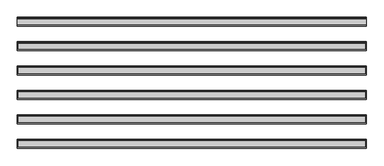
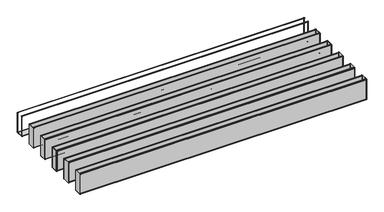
"""IFC4 building model written with IfcOpenShell, lengths in millimetres: proxy geometry, durlum_POLYLAM_KS : durlum_POLYLAM-KS/-S 100."""

from ifc_helpers import new_model, si_unit, frame, origin, place, context, project, spatial, polyline, circle_curve, outline, extrude, source, transform, mapped, element, save
from ifc_brep_helpers import plane_surface, cylinder_surface, advanced_brep


def generic_models_34a5c581(model_context):
    return source(origin(), model_context, "Body", "SolidModel", [
        advanced_brep(
        [(1995.0, 328.0, 2754.9464286), (1995.0, 318.0, 2754.9464286), (1995.0, 318.0, 2754.106874), (1995.0, 329.0, 2754.106874), (1995.0, 329.0, 2455.9464286), (1995.0, 231.0, 2455.9464286), (1995.0, 231.0, 2753.8620021), (1995.0, 242.0, 2753.8620021), (1995.0, 242.0, 2754.9464286), (1995.0, 232.0, 2754.9464286), (1995.0, 230.0, 2752.9464286), (1995.0, 230.0, 2456.9464286), (1995.0, 232.0, 2454.9464286), (1995.0, 328.0, 2454.9464286), (1995.0, 330.0, 2456.9464286), (1995.0, 330.0, 2752.9464286), (-1995.0, 328.0, 2754.9464286), (-1995.0, 330.0, 2752.9464286), (-1995.0, 330.0, 2456.9464286), (-1995.0, 328.0, 2454.9464286), (-1995.0, 232.0, 2454.9464286), (-1995.0, 230.0, 2456.9464286), (-1995.0, 230.0, 2752.9464286), (-1995.0, 232.0, 2754.9464286), (-1995.0, 242.0, 2754.9464286), (-1995.0, 242.0, 2753.8620021), (-1995.0, 231.0, 2753.8620021), (-1995.0, 231.0, 2455.9464286), (-1995.0, 329.0, 2455.9464286), (-1995.0, 329.0, 2754.106874), (-1995.0, 318.0, 2754.106874), (-1995.0, 318.0, 2754.9464286), (-1986.5, 329.0, 2746.4464286), (1986.5, 329.0, 2746.4464286), (1986.5, 329.0, 2463.4464286), (-1986.5, 329.0, 2463.4464286), (1986.5, 231.0, 2746.4464286), (-1986.5, 231.0, 2746.4464286), (-1986.5, 231.0, 2463.4464286), (1986.5, 231.0, 2463.4464286), (-1986.5, 230.0, 2746.4464286), (1986.5, 230.0, 2746.4464286), (1986.5, 230.0, 2463.4464286), (-1986.5, 230.0, 2463.4464286), (1986.5, 330.0, 2746.4464286), (-1986.5, 330.0, 2746.4464286), (-1986.5, 330.0, 2463.4464286), (1986.5, 330.0, 2463.4464286)],
        [
            (0, 1),
            (1, 2),
            (2, 3),
            (3, 4),
            (4, 5),
            (5, 6),
            (6, 7),
            (7, 8),
            (8, 9),
            (9, 10, circle_curve(frame((1995.0, 232.0, 2752.9464286), z_axis=(1.0, 0.0, 0.0), x_axis=(0.0, 1.0, 0.0)), 2.0)),
            (10, 11),
            (11, 12, circle_curve(frame((1995.0, 232.0, 2456.9464286), z_axis=(1.0, 0.0, 0.0), x_axis=(0.0, 1.0, 0.0)), 2.0)),
            (12, 13),
            (13, 14, circle_curve(frame((1995.0, 328.0, 2456.9464286), z_axis=(1.0, 0.0, 0.0), x_axis=(0.0, 1.0, 0.0)), 2.0)),
            (14, 15),
            (15, 0, circle_curve(frame((1995.0, 328.0, 2752.9464286), z_axis=(1.0, 0.0, 0.0), x_axis=(0.0, 1.0, 0.0)), 2.0)),
            (16, 17, circle_curve(frame((-1995.0, 328.0, 2752.9464286), z_axis=(-1.0, 0.0, 0.0), x_axis=(0.0, 1.0, 0.0)), 2.0)),
            (17, 18),
            (18, 19, circle_curve(frame((-1995.0, 328.0, 2456.9464286), z_axis=(-1.0, 0.0, 0.0), x_axis=(0.0, 1.0, 0.0)), 2.0)),
            (19, 20),
            (20, 21, circle_curve(frame((-1995.0, 232.0, 2456.9464286), z_axis=(-1.0, 0.0, 0.0), x_axis=(0.0, 1.0, 0.0)), 2.0)),
            (21, 22),
            (22, 23, circle_curve(frame((-1995.0, 232.0, 2752.9464286), z_axis=(-1.0, 0.0, 0.0), x_axis=(0.0, 1.0, 0.0)), 2.0)),
            (23, 24),
            (24, 25),
            (25, 26),
            (26, 27),
            (27, 28),
            (28, 29),
            (29, 30),
            (30, 31),
            (31, 16),
            (0, 16),
            (31, 1),
            (30, 2),
            (29, 3),
            (28, 4),
            (32, 33),
            (33, 34),
            (34, 35),
            (35, 32),
            (27, 5),
            (26, 6),
            (36, 37),
            (37, 38),
            (38, 39),
            (39, 36),
            (25, 7),
            (24, 8),
            (23, 9),
            (10, 22),
            (21, 11),
            (40, 41),
            (41, 42),
            (42, 43),
            (43, 40),
            (12, 20),
            (19, 13),
            (14, 18),
            (17, 15),
            (44, 45),
            (45, 46),
            (46, 47),
            (47, 44),
            (44, 33),
            (32, 45),
            (36, 41),
            (40, 37),
            (35, 46),
            (43, 38),
            (34, 47),
            (42, 39),
        ],
        [
            plane_surface(frame((1995.0, 318.0, 2754.9464286), z_axis=(1.0, 0.0, 0.0), x_axis=(0.0, -1.0, 0.0))),
            plane_surface(frame((-1995.0, 318.0, 2754.9464286), z_axis=(-1.0, 0.0, 0.0), x_axis=(0.0, 1.0, 0.0))),
            plane_surface(frame((1995.0, 328.0, 2754.9464286), z_axis=(0.0, 0.0, 1.0), x_axis=(-1.0, 0.0, 0.0))),
            plane_surface(frame((1995.0, 318.0, 2754.9464286), z_axis=(0.0, -1.0, 0.0), x_axis=(-1.0, 0.0, 0.0))),
            plane_surface(frame((1995.0, 318.0, 2754.106874), z_axis=(0.0, 0.0, -1.0), x_axis=(-1.0, 0.0, 0.0))),
            plane_surface(frame((1995.0, 329.0, 2754.106874), z_axis=(0.0, -1.0, 0.0), x_axis=(-1.0, 0.0, 0.0))),
            plane_surface(frame((1995.0, 329.0, 2455.9464286), z_axis=(0.0, 0.0, 1.0), x_axis=(-1.0, 0.0, 0.0))),
            plane_surface(frame((1995.0, 231.0, 2455.9464286), z_axis=(0.0, 1.0, 0.0), x_axis=(-1.0, 0.0, 0.0))),
            plane_surface(frame((1995.0, 231.0, 2753.8620021), z_axis=(0.0, 0.0, -1.0), x_axis=(-1.0, 0.0, 0.0))),
            plane_surface(frame((1995.0, 242.0, 2753.8620021), z_axis=(0.0, 1.0, 0.0), x_axis=(-1.0, 0.0, 0.0))),
            plane_surface(frame((1995.0, 242.0, 2754.9464286), z_axis=(0.0, 0.0, 1.0), x_axis=(-1.0, 0.0, 0.0))),
            plane_surface(frame((1995.0, 230.0, 2752.9464286), z_axis=(0.0, -1.0, 0.0), x_axis=(-1.0, 0.0, 0.0))),
            plane_surface(frame((1995.0, 232.0, 2454.9464286), z_axis=(0.0, 0.0, -1.0), x_axis=(-1.0, 0.0, 0.0))),
            plane_surface(frame((1995.0, 330.0, 2456.9464286), z_axis=(0.0, 1.0, 0.0), x_axis=(-1.0, 0.0, 0.0))),
            cylinder_surface(frame((-1995.0, 232.0, 2752.9464286), z_axis=(1.0, 0.0, 0.0), x_axis=(0.0, 1.0, 0.0)), 2.0),
            cylinder_surface(frame((-1995.0, 232.0, 2456.9464286), z_axis=(1.0, 0.0, 0.0), x_axis=(0.0, 1.0, 0.0)), 2.0),
            cylinder_surface(frame((-1995.0, 328.0, 2456.9464286), z_axis=(1.0, 0.0, 0.0), x_axis=(0.0, 1.0, 0.0)), 2.0),
            cylinder_surface(frame((-1995.0, 328.0, 2752.9464286), z_axis=(1.0, 0.0, 0.0), x_axis=(0.0, 1.0, 0.0)), 2.0),
            plane_surface(frame((1986.5, 230.0, 2746.4464286), z_axis=(0.0, 0.0, -1.0), x_axis=(0.0, 1.0, 0.0))),
            plane_surface(frame((-1986.5, 230.0, 2746.4464286), z_axis=(1.0, 0.0, 0.0), x_axis=(0.0, 1.0, 0.0))),
            plane_surface(frame((-1986.5, 230.0, 2463.4464286), z_axis=(0.0, 0.0, 1.0), x_axis=(0.0, 1.0, 0.0))),
            plane_surface(frame((1986.5, 230.0, 2463.4464286), z_axis=(-1.0, 0.0, 0.0), x_axis=(0.0, 1.0, 0.0))),
        ],
        [
            (0, [[1, 2, 3, 4, 5, 6, 7, 8, 9, 10, 11, 12, 13, 14, 15, 16]]),
            (1, [[17, 18, 19, 20, 21, 22, 23, 24, 25, 26, 27, 28, 29, 30, 31, 32]]),
            (2, [[-1, 33, -32, 34]]),
            (3, [[-2, -34, -31, 35]]),
            (4, [[-3, -35, -30, 36]]),
            (5, [[-4, -36, -29, 37], [38, 39, 40, 41]]),
            (6, [[-5, -37, -28, 42]]),
            (7, [[-6, -42, -27, 43], [44, 45, 46, 47]]),
            (8, [[-7, -43, -26, 48]]),
            (9, [[-8, -48, -25, 49]]),
            (10, [[-9, -49, -24, 50]]),
            (11, [[-11, 51, -22, 52], [53, 54, 55, 56]]),
            (12, [[-13, 57, -20, 58]]),
            (13, [[-15, 59, -18, 60], [61, 62, 63, 64]]),
            (14, [[-10, -50, -23, -51]]),
            (15, [[-12, -52, -21, -57]]),
            (16, [[-14, -58, -19, -59]]),
            (17, [[-16, -60, -17, -33]]),
            (18, [[65, -38, 66, -61]]),
            (18, [[67, -53, 68, -44]]),
            (19, [[-66, -41, 69, -62]]),
            (19, [[-68, -56, 70, -45]]),
            (20, [[-69, -40, 71, -63]]),
            (20, [[-70, -55, 72, -46]]),
            (21, [[-65, -64, -71, -39]]),
            (21, [[-67, -47, -72, -54]]),
        ],
    ),
        extrude(outline(polyline([(1986.5, 49.0), (-1986.5, 49.0), (-1986.5, 50.0), (1986.5, 50.0), (1986.5, 49.0)])), frame((0.0, 0.0, 2463.4464286), z_axis=(0.0, 0.0, 1.0), x_axis=(1.0, 0.0, 0.0)), (0.0, 0.0, 1.0), 283.0),
        extrude(outline(polyline([(1986.5, -50.0), (-1986.5, -50.0), (-1986.5, -49.0), (1986.5, -49.0), (1986.5, -50.0)])), frame((0.0, 0.0, 2463.4464286), z_axis=(0.0, 0.0, 1.0), x_axis=(1.0, 0.0, 0.0)), (0.0, 0.0, 1.0), 283.0),
        extrude(outline(polyline([(1993.0, 49.0), (1995.0, 49.0), (1995.0, -49.0), (1993.0, -49.0), (1993.0, 49.0)])), frame((0.0, 0.0, 2455.9464286), z_axis=(0.0, 0.0, 1.0), x_axis=(1.0, 0.0, 0.0)), (0.0, 0.0, 1.0), 298.1604454),
        extrude(outline(polyline([(-1995.0, 49.0), (-1993.0, 49.0), (-1993.0, -49.0), (-1995.0, -49.0), (-1995.0, 49.0)])), frame((0.0, 0.0, 2455.9464286), z_axis=(0.0, 0.0, 1.0), x_axis=(1.0, 0.0, 0.0)), (0.0, 0.0, 1.0), 298.1604454),
        advanced_brep(
        [(1995.0, 48.0, 2754.9464286), (1995.0, 38.0, 2754.9464286), (1995.0, 38.0, 2754.106874), (1995.0, 49.0, 2754.106874), (1995.0, 49.0, 2455.9464286), (1995.0, -49.0, 2455.9464286), (1995.0, -49.0, 2753.8620021), (1995.0, -38.0, 2753.8620021), (1995.0, -38.0, 2754.9464286), (1995.0, -48.0, 2754.9464286), (1995.0, -50.0, 2752.9464286), (1995.0, -50.0, 2456.9464286), (1995.0, -48.0, 2454.9464286), (1995.0, 48.0, 2454.9464286), (1995.0, 50.0, 2456.9464286), (1995.0, 50.0, 2752.9464286), (-1995.0, 48.0, 2754.9464286), (-1995.0, 50.0, 2752.9464286), (-1995.0, 50.0, 2456.9464286), (-1995.0, 48.0, 2454.9464286), (-1995.0, -48.0, 2454.9464286), (-1995.0, -50.0, 2456.9464286), (-1995.0, -50.0, 2752.9464286), (-1995.0, -48.0, 2754.9464286), (-1995.0, -38.0, 2754.9464286), (-1995.0, -38.0, 2753.8620021), (-1995.0, -49.0, 2753.8620021), (-1995.0, -49.0, 2455.9464286), (-1995.0, 49.0, 2455.9464286), (-1995.0, 49.0, 2754.106874), (-1995.0, 38.0, 2754.106874), (-1995.0, 38.0, 2754.9464286), (-1986.5, 49.0, 2746.4464286), (1986.5, 49.0, 2746.4464286), (1986.5, 49.0, 2463.4464286), (-1986.5, 49.0, 2463.4464286), (1986.5, -49.0, 2746.4464286), (-1986.5, -49.0, 2746.4464286), (-1986.5, -49.0, 2463.4464286), (1986.5, -49.0, 2463.4464286), (-1986.5, -50.0, 2746.4464286), (1986.5, -50.0, 2746.4464286), (1986.5, -50.0, 2463.4464286), (-1986.5, -50.0, 2463.4464286), (1986.5, 50.0, 2746.4464286), (-1986.5, 50.0, 2746.4464286), (-1986.5, 50.0, 2463.4464286), (1986.5, 50.0, 2463.4464286)],
        [
            (0, 1),
            (1, 2),
            (2, 3),
            (3, 4),
            (4, 5),
            (5, 6),
            (6, 7),
            (7, 8),
            (8, 9),
            (9, 10, circle_curve(frame((1995.0, -48.0, 2752.9464286), z_axis=(1.0, 0.0, 0.0), x_axis=(0.0, 1.0, 0.0)), 2.0)),
            (10, 11),
            (11, 12, circle_curve(frame((1995.0, -48.0, 2456.9464286), z_axis=(1.0, 0.0, 0.0), x_axis=(0.0, 1.0, 0.0)), 2.0)),
            (12, 13),
            (13, 14, circle_curve(frame((1995.0, 48.0, 2456.9464286), z_axis=(1.0, 0.0, 0.0), x_axis=(0.0, 1.0, 0.0)), 2.0)),
            (14, 15),
            (15, 0, circle_curve(frame((1995.0, 48.0, 2752.9464286), z_axis=(1.0, 0.0, 0.0), x_axis=(0.0, 1.0, 0.0)), 2.0)),
            (16, 17, circle_curve(frame((-1995.0, 48.0, 2752.9464286), z_axis=(-1.0, 0.0, 0.0), x_axis=(0.0, 1.0, 0.0)), 2.0)),
            (17, 18),
            (18, 19, circle_curve(frame((-1995.0, 48.0, 2456.9464286), z_axis=(-1.0, 0.0, 0.0), x_axis=(0.0, 1.0, 0.0)), 2.0)),
            (19, 20),
            (20, 21, circle_curve(frame((-1995.0, -48.0, 2456.9464286), z_axis=(-1.0, 0.0, 0.0), x_axis=(0.0, 1.0, 0.0)), 2.0)),
            (21, 22),
            (22, 23, circle_curve(frame((-1995.0, -48.0, 2752.9464286), z_axis=(-1.0, 0.0, 0.0), x_axis=(0.0, 1.0, 0.0)), 2.0)),
            (23, 24),
            (24, 25),
            (25, 26),
            (26, 27),
            (27, 28),
            (28, 29),
            (29, 30),
            (30, 31),
            (31, 16),
            (0, 16),
            (31, 1),
            (30, 2),
            (29, 3),
            (28, 4),
            (32, 33),
            (33, 34),
            (34, 35),
            (35, 32),
            (27, 5),
            (26, 6),
            (36, 37),
            (37, 38),
            (38, 39),
            (39, 36),
            (25, 7),
            (24, 8),
            (23, 9),
            (10, 22),
            (21, 11),
            (40, 41),
            (41, 42),
            (42, 43),
            (43, 40),
            (12, 20),
            (19, 13),
            (14, 18),
            (17, 15),
            (44, 45),
            (45, 46),
            (46, 47),
            (47, 44),
            (44, 33),
            (32, 45),
            (36, 41),
            (40, 37),
            (35, 46),
            (43, 38),
            (34, 47),
            (42, 39),
        ],
        [
            plane_surface(frame((1995.0, 38.0, 2754.9464286), z_axis=(1.0, 0.0, 0.0), x_axis=(0.0, -1.0, 0.0))),
            plane_surface(frame((-1995.0, 38.0, 2754.9464286), z_axis=(-1.0, 0.0, 0.0), x_axis=(0.0, 1.0, 0.0))),
            plane_surface(frame((1995.0, 48.0, 2754.9464286), z_axis=(0.0, 0.0, 1.0), x_axis=(-1.0, 0.0, 0.0))),
            plane_surface(frame((1995.0, 38.0, 2754.9464286), z_axis=(0.0, -1.0, 0.0), x_axis=(-1.0, 0.0, 0.0))),
            plane_surface(frame((1995.0, 38.0, 2754.106874), z_axis=(0.0, 0.0, -1.0), x_axis=(-1.0, 0.0, 0.0))),
            plane_surface(frame((1995.0, 49.0, 2754.106874), z_axis=(0.0, -1.0, 0.0), x_axis=(-1.0, 0.0, 0.0))),
            plane_surface(frame((1995.0, 49.0, 2455.9464286), z_axis=(0.0, 0.0, 1.0), x_axis=(-1.0, 0.0, 0.0))),
            plane_surface(frame((1995.0, -49.0, 2455.9464286), z_axis=(0.0, 1.0, 0.0), x_axis=(-1.0, 0.0, 0.0))),
            plane_surface(frame((1995.0, -49.0, 2753.8620021), z_axis=(0.0, 0.0, -1.0), x_axis=(-1.0, 0.0, 0.0))),
            plane_surface(frame((1995.0, -38.0, 2753.8620021), z_axis=(0.0, 1.0, 0.0), x_axis=(-1.0, 0.0, 0.0))),
            plane_surface(frame((1995.0, -38.0, 2754.9464286), z_axis=(0.0, 0.0, 1.0), x_axis=(-1.0, 0.0, 0.0))),
            plane_surface(frame((1995.0, -50.0, 2752.9464286), z_axis=(0.0, -1.0, 0.0), x_axis=(-1.0, 0.0, 0.0))),
            plane_surface(frame((1995.0, -48.0, 2454.9464286), z_axis=(0.0, 0.0, -1.0), x_axis=(-1.0, 0.0, 0.0))),
            plane_surface(frame((1995.0, 50.0, 2456.9464286), z_axis=(0.0, 1.0, 0.0), x_axis=(-1.0, 0.0, 0.0))),
            cylinder_surface(frame((-1995.0, -48.0, 2752.9464286), z_axis=(1.0, 0.0, 0.0), x_axis=(0.0, 1.0, 0.0)), 2.0),
            cylinder_surface(frame((-1995.0, -48.0, 2456.9464286), z_axis=(1.0, 0.0, 0.0), x_axis=(0.0, 1.0, 0.0)), 2.0),
            cylinder_surface(frame((-1995.0, 48.0, 2456.9464286), z_axis=(1.0, 0.0, 0.0), x_axis=(0.0, 1.0, 0.0)), 2.0),
            cylinder_surface(frame((-1995.0, 48.0, 2752.9464286), z_axis=(1.0, 0.0, 0.0), x_axis=(0.0, 1.0, 0.0)), 2.0),
            plane_surface(frame((1986.5, -50.0, 2746.4464286), z_axis=(0.0, 0.0, -1.0), x_axis=(0.0, 1.0, 0.0))),
            plane_surface(frame((-1986.5, -50.0, 2746.4464286), z_axis=(1.0, 0.0, 0.0), x_axis=(0.0, 1.0, 0.0))),
            plane_surface(frame((-1986.5, -50.0, 2463.4464286), z_axis=(0.0, 0.0, 1.0), x_axis=(0.0, 1.0, 0.0))),
            plane_surface(frame((1986.5, -50.0, 2463.4464286), z_axis=(-1.0, 0.0, 0.0), x_axis=(0.0, 1.0, 0.0))),
        ],
        [
            (0, [[1, 2, 3, 4, 5, 6, 7, 8, 9, 10, 11, 12, 13, 14, 15, 16]]),
            (1, [[17, 18, 19, 20, 21, 22, 23, 24, 25, 26, 27, 28, 29, 30, 31, 32]]),
            (2, [[-1, 33, -32, 34]]),
            (3, [[-2, -34, -31, 35]]),
            (4, [[-3, -35, -30, 36]]),
            (5, [[-4, -36, -29, 37], [38, 39, 40, 41]]),
            (6, [[-5, -37, -28, 42]]),
            (7, [[-6, -42, -27, 43], [44, 45, 46, 47]]),
            (8, [[-7, -43, -26, 48]]),
            (9, [[-8, -48, -25, 49]]),
            (10, [[-9, -49, -24, 50]]),
            (11, [[-11, 51, -22, 52], [53, 54, 55, 56]]),
            (12, [[-13, 57, -20, 58]]),
            (13, [[-15, 59, -18, 60], [61, 62, 63, 64]]),
            (14, [[-10, -50, -23, -51]]),
            (15, [[-12, -52, -21, -57]]),
            (16, [[-14, -58, -19, -59]]),
            (17, [[-16, -60, -17, -33]]),
            (18, [[65, -38, 66, -61]]),
            (18, [[67, -53, 68, -44]]),
            (19, [[-66, -41, 69, -62]]),
            (19, [[-68, -56, 70, -45]]),
            (20, [[-69, -40, 71, -63]]),
            (20, [[-70, -55, 72, -46]]),
            (21, [[-65, -64, -71, -39]]),
            (21, [[-67, -47, -72, -54]]),
        ],
    ),
        extrude(outline(polyline([(1986.5, -231.0), (-1986.5, -231.0), (-1986.5, -230.0), (1986.5, -230.0), (1986.5, -231.0)])), frame((0.0, 0.0, 2463.4464286), z_axis=(0.0, 0.0, 1.0), x_axis=(1.0, 0.0, 0.0)), (0.0, 0.0, 1.0), 283.0),
        extrude(outline(polyline([(1986.5, -330.0), (-1986.5, -330.0), (-1986.5, -329.0), (1986.5, -329.0), (1986.5, -330.0)])), frame((0.0, 0.0, 2463.4464286), z_axis=(0.0, 0.0, 1.0), x_axis=(1.0, 0.0, 0.0)), (0.0, 0.0, 1.0), 283.0),
        extrude(outline(polyline([(1993.0, -231.0), (1995.0, -231.0), (1995.0, -329.0), (1993.0, -329.0), (1993.0, -231.0)])), frame((0.0, 0.0, 2455.9464286), z_axis=(0.0, 0.0, 1.0), x_axis=(1.0, 0.0, 0.0)), (0.0, 0.0, 1.0), 298.1604454),
        extrude(outline(polyline([(-1995.0, -231.0), (-1993.0, -231.0), (-1993.0, -329.0), (-1995.0, -329.0), (-1995.0, -231.0)])), frame((0.0, 0.0, 2455.9464286), z_axis=(0.0, 0.0, 1.0), x_axis=(1.0, 0.0, 0.0)), (0.0, 0.0, 1.0), 298.1604454),
        advanced_brep(
        [(1995.0, -232.0, 2754.9464286), (1995.0, -242.0, 2754.9464286), (1995.0, -242.0, 2754.106874), (1995.0, -231.0, 2754.106874), (1995.0, -231.0, 2455.9464286), (1995.0, -329.0, 2455.9464286), (1995.0, -329.0, 2753.8620021), (1995.0, -318.0, 2753.8620021), (1995.0, -318.0, 2754.9464286), (1995.0, -328.0, 2754.9464286), (1995.0, -330.0, 2752.9464286), (1995.0, -330.0, 2456.9464286), (1995.0, -328.0, 2454.9464286), (1995.0, -232.0, 2454.9464286), (1995.0, -230.0, 2456.9464286), (1995.0, -230.0, 2752.9464286), (-1995.0, -232.0, 2754.9464286), (-1995.0, -230.0, 2752.9464286), (-1995.0, -230.0, 2456.9464286), (-1995.0, -232.0, 2454.9464286), (-1995.0, -328.0, 2454.9464286), (-1995.0, -330.0, 2456.9464286), (-1995.0, -330.0, 2752.9464286), (-1995.0, -328.0, 2754.9464286), (-1995.0, -318.0, 2754.9464286), (-1995.0, -318.0, 2753.8620021), (-1995.0, -329.0, 2753.8620021), (-1995.0, -329.0, 2455.9464286), (-1995.0, -231.0, 2455.9464286), (-1995.0, -231.0, 2754.106874), (-1995.0, -242.0, 2754.106874), (-1995.0, -242.0, 2754.9464286), (-1986.5, -231.0, 2746.4464286), (1986.5, -231.0, 2746.4464286), (1986.5, -231.0, 2463.4464286), (-1986.5, -231.0, 2463.4464286), (1986.5, -329.0, 2746.4464286), (-1986.5, -329.0, 2746.4464286), (-1986.5, -329.0, 2463.4464286), (1986.5, -329.0, 2463.4464286), (-1986.5, -330.0, 2746.4464286), (1986.5, -330.0, 2746.4464286), (1986.5, -330.0, 2463.4464286), (-1986.5, -330.0, 2463.4464286), (1986.5, -230.0, 2746.4464286), (-1986.5, -230.0, 2746.4464286), (-1986.5, -230.0, 2463.4464286), (1986.5, -230.0, 2463.4464286)],
        [
            (0, 1),
            (1, 2),
            (2, 3),
            (3, 4),
            (4, 5),
            (5, 6),
            (6, 7),
            (7, 8),
            (8, 9),
            (9, 10, circle_curve(frame((1995.0, -328.0, 2752.9464286), z_axis=(1.0, 0.0, 0.0), x_axis=(0.0, 1.0, 0.0)), 2.0)),
            (10, 11),
            (11, 12, circle_curve(frame((1995.0, -328.0, 2456.9464286), z_axis=(1.0, 0.0, 0.0), x_axis=(0.0, 1.0, 0.0)), 2.0)),
            (12, 13),
            (13, 14, circle_curve(frame((1995.0, -232.0, 2456.9464286), z_axis=(1.0, 0.0, 0.0), x_axis=(0.0, 1.0, 0.0)), 2.0)),
            (14, 15),
            (15, 0, circle_curve(frame((1995.0, -232.0, 2752.9464286), z_axis=(1.0, 0.0, 0.0), x_axis=(0.0, 1.0, 0.0)), 2.0)),
            (16, 17, circle_curve(frame((-1995.0, -232.0, 2752.9464286), z_axis=(-1.0, 0.0, 0.0), x_axis=(0.0, 1.0, 0.0)), 2.0)),
            (17, 18),
            (18, 19, circle_curve(frame((-1995.0, -232.0, 2456.9464286), z_axis=(-1.0, 0.0, 0.0), x_axis=(0.0, 1.0, 0.0)), 2.0)),
            (19, 20),
            (20, 21, circle_curve(frame((-1995.0, -328.0, 2456.9464286), z_axis=(-1.0, 0.0, 0.0), x_axis=(0.0, 1.0, 0.0)), 2.0)),
            (21, 22),
            (22, 23, circle_curve(frame((-1995.0, -328.0, 2752.9464286), z_axis=(-1.0, 0.0, 0.0), x_axis=(0.0, 1.0, 0.0)), 2.0)),
            (23, 24),
            (24, 25),
            (25, 26),
            (26, 27),
            (27, 28),
            (28, 29),
            (29, 30),
            (30, 31),
            (31, 16),
            (0, 16),
            (31, 1),
            (30, 2),
            (29, 3),
            (28, 4),
            (32, 33),
            (33, 34),
            (34, 35),
            (35, 32),
            (27, 5),
            (26, 6),
            (36, 37),
            (37, 38),
            (38, 39),
            (39, 36),
            (25, 7),
            (24, 8),
            (23, 9),
            (10, 22),
            (21, 11),
            (40, 41),
            (41, 42),
            (42, 43),
            (43, 40),
            (12, 20),
            (19, 13),
            (14, 18),
            (17, 15),
            (44, 45),
            (45, 46),
            (46, 47),
            (47, 44),
            (44, 33),
            (32, 45),
            (36, 41),
            (40, 37),
            (35, 46),
            (43, 38),
            (34, 47),
            (42, 39),
        ],
        [
            plane_surface(frame((1995.0, -242.0, 2754.9464286), z_axis=(1.0, 0.0, 0.0), x_axis=(0.0, -1.0, 0.0))),
            plane_surface(frame((-1995.0, -242.0, 2754.9464286), z_axis=(-1.0, 0.0, 0.0), x_axis=(0.0, 1.0, 0.0))),
            plane_surface(frame((1995.0, -232.0, 2754.9464286), z_axis=(0.0, 0.0, 1.0), x_axis=(-1.0, 0.0, 0.0))),
            plane_surface(frame((1995.0, -242.0, 2754.9464286), z_axis=(0.0, -1.0, 0.0), x_axis=(-1.0, 0.0, 0.0))),
            plane_surface(frame((1995.0, -242.0, 2754.106874), z_axis=(0.0, 0.0, -1.0), x_axis=(-1.0, 0.0, 0.0))),
            plane_surface(frame((1995.0, -231.0, 2754.106874), z_axis=(0.0, -1.0, 0.0), x_axis=(-1.0, 0.0, 0.0))),
            plane_surface(frame((1995.0, -231.0, 2455.9464286), z_axis=(0.0, 0.0, 1.0), x_axis=(-1.0, 0.0, 0.0))),
            plane_surface(frame((1995.0, -329.0, 2455.9464286), z_axis=(0.0, 1.0, 0.0), x_axis=(-1.0, 0.0, 0.0))),
            plane_surface(frame((1995.0, -329.0, 2753.8620021), z_axis=(0.0, 0.0, -1.0), x_axis=(-1.0, 0.0, 0.0))),
            plane_surface(frame((1995.0, -318.0, 2753.8620021), z_axis=(0.0, 1.0, 0.0), x_axis=(-1.0, 0.0, 0.0))),
            plane_surface(frame((1995.0, -318.0, 2754.9464286), z_axis=(0.0, 0.0, 1.0), x_axis=(-1.0, 0.0, 0.0))),
            plane_surface(frame((1995.0, -330.0, 2752.9464286), z_axis=(0.0, -1.0, 0.0), x_axis=(-1.0, 0.0, 0.0))),
            plane_surface(frame((1995.0, -328.0, 2454.9464286), z_axis=(0.0, 0.0, -1.0), x_axis=(-1.0, 0.0, 0.0))),
            plane_surface(frame((1995.0, -230.0, 2456.9464286), z_axis=(0.0, 1.0, 0.0), x_axis=(-1.0, 0.0, 0.0))),
            cylinder_surface(frame((-1995.0, -328.0, 2752.9464286), z_axis=(1.0, 0.0, 0.0), x_axis=(0.0, 1.0, 0.0)), 2.0),
            cylinder_surface(frame((-1995.0, -328.0, 2456.9464286), z_axis=(1.0, 0.0, 0.0), x_axis=(0.0, 1.0, 0.0)), 2.0),
            cylinder_surface(frame((-1995.0, -232.0, 2456.9464286), z_axis=(1.0, 0.0, 0.0), x_axis=(0.0, 1.0, 0.0)), 2.0),
            cylinder_surface(frame((-1995.0, -232.0, 2752.9464286), z_axis=(1.0, 0.0, 0.0), x_axis=(0.0, 1.0, 0.0)), 2.0),
            plane_surface(frame((1986.5, -330.0, 2746.4464286), z_axis=(0.0, 0.0, -1.0), x_axis=(0.0, 1.0, 0.0))),
            plane_surface(frame((-1986.5, -330.0, 2746.4464286), z_axis=(1.0, 0.0, 0.0), x_axis=(0.0, 1.0, 0.0))),
            plane_surface(frame((-1986.5, -330.0, 2463.4464286), z_axis=(0.0, 0.0, 1.0), x_axis=(0.0, 1.0, 0.0))),
            plane_surface(frame((1986.5, -330.0, 2463.4464286), z_axis=(-1.0, 0.0, 0.0), x_axis=(0.0, 1.0, 0.0))),
        ],
        [
            (0, [[1, 2, 3, 4, 5, 6, 7, 8, 9, 10, 11, 12, 13, 14, 15, 16]]),
            (1, [[17, 18, 19, 20, 21, 22, 23, 24, 25, 26, 27, 28, 29, 30, 31, 32]]),
            (2, [[-1, 33, -32, 34]]),
            (3, [[-2, -34, -31, 35]]),
            (4, [[-3, -35, -30, 36]]),
            (5, [[-4, -36, -29, 37], [38, 39, 40, 41]]),
            (6, [[-5, -37, -28, 42]]),
            (7, [[-6, -42, -27, 43], [44, 45, 46, 47]]),
            (8, [[-7, -43, -26, 48]]),
            (9, [[-8, -48, -25, 49]]),
            (10, [[-9, -49, -24, 50]]),
            (11, [[-11, 51, -22, 52], [53, 54, 55, 56]]),
            (12, [[-13, 57, -20, 58]]),
            (13, [[-15, 59, -18, 60], [61, 62, 63, 64]]),
            (14, [[-10, -50, -23, -51]]),
            (15, [[-12, -52, -21, -57]]),
            (16, [[-14, -58, -19, -59]]),
            (17, [[-16, -60, -17, -33]]),
            (18, [[65, -38, 66, -61]]),
            (18, [[67, -53, 68, -44]]),
            (19, [[-66, -41, 69, -62]]),
            (19, [[-68, -56, 70, -45]]),
            (20, [[-69, -40, 71, -63]]),
            (20, [[-70, -55, 72, -46]]),
            (21, [[-65, -64, -71, -39]]),
            (21, [[-67, -47, -72, -54]]),
        ],
    ),
        extrude(outline(polyline([(1986.5, -511.0), (-1986.5, -511.0), (-1986.5, -510.0), (1986.5, -510.0), (1986.5, -511.0)])), frame((0.0, 0.0, 2463.4464286), z_axis=(0.0, 0.0, 1.0), x_axis=(1.0, 0.0, 0.0)), (0.0, 0.0, 1.0), 283.0),
        extrude(outline(polyline([(1986.5, -610.0), (-1986.5, -610.0), (-1986.5, -609.0), (1986.5, -609.0), (1986.5, -610.0)])), frame((0.0, 0.0, 2463.4464286), z_axis=(0.0, 0.0, 1.0), x_axis=(1.0, 0.0, 0.0)), (0.0, 0.0, 1.0), 283.0),
        extrude(outline(polyline([(1993.0, -511.0), (1995.0, -511.0), (1995.0, -609.0), (1993.0, -609.0), (1993.0, -511.0)])), frame((0.0, 0.0, 2455.9464286), z_axis=(0.0, 0.0, 1.0), x_axis=(1.0, 0.0, 0.0)), (0.0, 0.0, 1.0), 298.1604454),
        extrude(outline(polyline([(-1995.0, -511.0), (-1993.0, -511.0), (-1993.0, -609.0), (-1995.0, -609.0), (-1995.0, -511.0)])), frame((0.0, 0.0, 2455.9464286), z_axis=(0.0, 0.0, 1.0), x_axis=(1.0, 0.0, 0.0)), (0.0, 0.0, 1.0), 298.1604454),
        advanced_brep(
        [(1995.0, -512.0, 2754.9464286), (1995.0, -522.0, 2754.9464286), (1995.0, -522.0, 2754.106874), (1995.0, -511.0, 2754.106874), (1995.0, -511.0, 2455.9464286), (1995.0, -609.0, 2455.9464286), (1995.0, -609.0, 2753.8620021), (1995.0, -598.0, 2753.8620021), (1995.0, -598.0, 2754.9464286), (1995.0, -608.0, 2754.9464286), (1995.0, -610.0, 2752.9464286), (1995.0, -610.0, 2456.9464286), (1995.0, -608.0, 2454.9464286), (1995.0, -512.0, 2454.9464286), (1995.0, -510.0, 2456.9464286), (1995.0, -510.0, 2752.9464286), (-1995.0, -512.0, 2754.9464286), (-1995.0, -510.0, 2752.9464286), (-1995.0, -510.0, 2456.9464286), (-1995.0, -512.0, 2454.9464286), (-1995.0, -608.0, 2454.9464286), (-1995.0, -610.0, 2456.9464286), (-1995.0, -610.0, 2752.9464286), (-1995.0, -608.0, 2754.9464286), (-1995.0, -598.0, 2754.9464286), (-1995.0, -598.0, 2753.8620021), (-1995.0, -609.0, 2753.8620021), (-1995.0, -609.0, 2455.9464286), (-1995.0, -511.0, 2455.9464286), (-1995.0, -511.0, 2754.106874), (-1995.0, -522.0, 2754.106874), (-1995.0, -522.0, 2754.9464286), (-1986.5, -511.0, 2746.4464286), (1986.5, -511.0, 2746.4464286), (1986.5, -511.0, 2463.4464286), (-1986.5, -511.0, 2463.4464286), (1986.5, -609.0, 2746.4464286), (-1986.5, -609.0, 2746.4464286), (-1986.5, -609.0, 2463.4464286), (1986.5, -609.0, 2463.4464286), (-1986.5, -610.0, 2746.4464286), (1986.5, -610.0, 2746.4464286), (1986.5, -610.0, 2463.4464286), (-1986.5, -610.0, 2463.4464286), (1986.5, -510.0, 2746.4464286), (-1986.5, -510.0, 2746.4464286), (-1986.5, -510.0, 2463.4464286), (1986.5, -510.0, 2463.4464286)],
        [
            (0, 1),
            (1, 2),
            (2, 3),
            (3, 4),
            (4, 5),
            (5, 6),
            (6, 7),
            (7, 8),
            (8, 9),
            (9, 10, circle_curve(frame((1995.0, -608.0, 2752.9464286), z_axis=(1.0, 0.0, 0.0), x_axis=(0.0, 1.0, 0.0)), 2.0)),
            (10, 11),
            (11, 12, circle_curve(frame((1995.0, -608.0, 2456.9464286), z_axis=(1.0, 0.0, 0.0), x_axis=(0.0, 1.0, 0.0)), 2.0)),
            (12, 13),
            (13, 14, circle_curve(frame((1995.0, -512.0, 2456.9464286), z_axis=(1.0, 0.0, 0.0), x_axis=(0.0, 1.0, 0.0)), 2.0)),
            (14, 15),
            (15, 0, circle_curve(frame((1995.0, -512.0, 2752.9464286), z_axis=(1.0, 0.0, 0.0), x_axis=(0.0, 1.0, 0.0)), 2.0)),
            (16, 17, circle_curve(frame((-1995.0, -512.0, 2752.9464286), z_axis=(-1.0, 0.0, 0.0), x_axis=(0.0, 1.0, 0.0)), 2.0)),
            (17, 18),
            (18, 19, circle_curve(frame((-1995.0, -512.0, 2456.9464286), z_axis=(-1.0, 0.0, 0.0), x_axis=(0.0, 1.0, 0.0)), 2.0)),
            (19, 20),
            (20, 21, circle_curve(frame((-1995.0, -608.0, 2456.9464286), z_axis=(-1.0, 0.0, 0.0), x_axis=(0.0, 1.0, 0.0)), 2.0)),
            (21, 22),
            (22, 23, circle_curve(frame((-1995.0, -608.0, 2752.9464286), z_axis=(-1.0, 0.0, 0.0), x_axis=(0.0, 1.0, 0.0)), 2.0)),
            (23, 24),
            (24, 25),
            (25, 26),
            (26, 27),
            (27, 28),
            (28, 29),
            (29, 30),
            (30, 31),
            (31, 16),
            (0, 16),
            (31, 1),
            (30, 2),
            (29, 3),
            (28, 4),
            (32, 33),
            (33, 34),
            (34, 35),
            (35, 32),
            (27, 5),
            (26, 6),
            (36, 37),
            (37, 38),
            (38, 39),
            (39, 36),
            (25, 7),
            (24, 8),
            (23, 9),
            (10, 22),
            (21, 11),
            (40, 41),
            (41, 42),
            (42, 43),
            (43, 40),
            (12, 20),
            (19, 13),
            (14, 18),
            (17, 15),
            (44, 45),
            (45, 46),
            (46, 47),
            (47, 44),
            (44, 33),
            (32, 45),
            (36, 41),
            (40, 37),
            (35, 46),
            (43, 38),
            (34, 47),
            (42, 39),
        ],
        [
            plane_surface(frame((1995.0, -522.0, 2754.9464286), z_axis=(1.0, 0.0, 0.0), x_axis=(0.0, -1.0, 0.0))),
            plane_surface(frame((-1995.0, -522.0, 2754.9464286), z_axis=(-1.0, 0.0, 0.0), x_axis=(0.0, 1.0, 0.0))),
            plane_surface(frame((1995.0, -512.0, 2754.9464286), z_axis=(0.0, 0.0, 1.0), x_axis=(-1.0, 0.0, 0.0))),
            plane_surface(frame((1995.0, -522.0, 2754.9464286), z_axis=(0.0, -1.0, 0.0), x_axis=(-1.0, 0.0, 0.0))),
            plane_surface(frame((1995.0, -522.0, 2754.106874), z_axis=(0.0, 0.0, -1.0), x_axis=(-1.0, 0.0, 0.0))),
            plane_surface(frame((1995.0, -511.0, 2754.106874), z_axis=(0.0, -1.0, 0.0), x_axis=(-1.0, 0.0, 0.0))),
            plane_surface(frame((1995.0, -511.0, 2455.9464286), z_axis=(0.0, 0.0, 1.0), x_axis=(-1.0, 0.0, 0.0))),
            plane_surface(frame((1995.0, -609.0, 2455.9464286), z_axis=(0.0, 1.0, 0.0), x_axis=(-1.0, 0.0, 0.0))),
            plane_surface(frame((1995.0, -609.0, 2753.8620021), z_axis=(0.0, 0.0, -1.0), x_axis=(-1.0, 0.0, 0.0))),
            plane_surface(frame((1995.0, -598.0, 2753.8620021), z_axis=(0.0, 1.0, 0.0), x_axis=(-1.0, 0.0, 0.0))),
            plane_surface(frame((1995.0, -598.0, 2754.9464286), z_axis=(0.0, 0.0, 1.0), x_axis=(-1.0, 0.0, 0.0))),
            plane_surface(frame((1995.0, -610.0, 2752.9464286), z_axis=(0.0, -1.0, 0.0), x_axis=(-1.0, 0.0, 0.0))),
            plane_surface(frame((1995.0, -608.0, 2454.9464286), z_axis=(0.0, 0.0, -1.0), x_axis=(-1.0, 0.0, 0.0))),
            plane_surface(frame((1995.0, -510.0, 2456.9464286), z_axis=(0.0, 1.0, 0.0), x_axis=(-1.0, 0.0, 0.0))),
            cylinder_surface(frame((-1995.0, -608.0, 2752.9464286), z_axis=(1.0, 0.0, 0.0), x_axis=(0.0, 1.0, 0.0)), 2.0),
            cylinder_surface(frame((-1995.0, -608.0, 2456.9464286), z_axis=(1.0, 0.0, 0.0), x_axis=(0.0, 1.0, 0.0)), 2.0),
            cylinder_surface(frame((-1995.0, -512.0, 2456.9464286), z_axis=(1.0, 0.0, 0.0), x_axis=(0.0, 1.0, 0.0)), 2.0),
            cylinder_surface(frame((-1995.0, -512.0, 2752.9464286), z_axis=(1.0, 0.0, 0.0), x_axis=(0.0, 1.0, 0.0)), 2.0),
            plane_surface(frame((1986.5, -610.0, 2746.4464286), z_axis=(0.0, 0.0, -1.0), x_axis=(0.0, 1.0, 0.0))),
            plane_surface(frame((-1986.5, -610.0, 2746.4464286), z_axis=(1.0, 0.0, 0.0), x_axis=(0.0, 1.0, 0.0))),
            plane_surface(frame((-1986.5, -610.0, 2463.4464286), z_axis=(0.0, 0.0, 1.0), x_axis=(0.0, 1.0, 0.0))),
            plane_surface(frame((1986.5, -610.0, 2463.4464286), z_axis=(-1.0, 0.0, 0.0), x_axis=(0.0, 1.0, 0.0))),
        ],
        [
            (0, [[1, 2, 3, 4, 5, 6, 7, 8, 9, 10, 11, 12, 13, 14, 15, 16]]),
            (1, [[17, 18, 19, 20, 21, 22, 23, 24, 25, 26, 27, 28, 29, 30, 31, 32]]),
            (2, [[-1, 33, -32, 34]]),
            (3, [[-2, -34, -31, 35]]),
            (4, [[-3, -35, -30, 36]]),
            (5, [[-4, -36, -29, 37], [38, 39, 40, 41]]),
            (6, [[-5, -37, -28, 42]]),
            (7, [[-6, -42, -27, 43], [44, 45, 46, 47]]),
            (8, [[-7, -43, -26, 48]]),
            (9, [[-8, -48, -25, 49]]),
            (10, [[-9, -49, -24, 50]]),
            (11, [[-11, 51, -22, 52], [53, 54, 55, 56]]),
            (12, [[-13, 57, -20, 58]]),
            (13, [[-15, 59, -18, 60], [61, 62, 63, 64]]),
            (14, [[-10, -50, -23, -51]]),
            (15, [[-12, -52, -21, -57]]),
            (16, [[-14, -58, -19, -59]]),
            (17, [[-16, -60, -17, -33]]),
            (18, [[65, -38, 66, -61]]),
            (18, [[67, -53, 68, -44]]),
            (19, [[-66, -41, 69, -62]]),
            (19, [[-68, -56, 70, -45]]),
            (20, [[-69, -40, 71, -63]]),
            (20, [[-70, -55, 72, -46]]),
            (21, [[-65, -64, -71, -39]]),
            (21, [[-67, -47, -72, -54]]),
        ],
    ),
        extrude(outline(polyline([(1986.5, -791.0), (-1986.5, -791.0), (-1986.5, -790.0), (1986.5, -790.0), (1986.5, -791.0)])), frame((0.0, 0.0, 2463.4464286), z_axis=(0.0, 0.0, 1.0), x_axis=(1.0, 0.0, 0.0)), (0.0, 0.0, 1.0), 283.0),
        extrude(outline(polyline([(1986.5, -890.0), (-1986.5, -890.0), (-1986.5, -889.0), (1986.5, -889.0), (1986.5, -890.0)])), frame((0.0, 0.0, 2463.4464286), z_axis=(0.0, 0.0, 1.0), x_axis=(1.0, 0.0, 0.0)), (0.0, 0.0, 1.0), 283.0),
        extrude(outline(polyline([(1993.0, -791.0), (1995.0, -791.0), (1995.0, -889.0), (1993.0, -889.0), (1993.0, -791.0)])), frame((0.0, 0.0, 2455.9464286), z_axis=(0.0, 0.0, 1.0), x_axis=(1.0, 0.0, 0.0)), (0.0, 0.0, 1.0), 298.1604454),
        extrude(outline(polyline([(-1995.0, -791.0), (-1993.0, -791.0), (-1993.0, -889.0), (-1995.0, -889.0), (-1995.0, -791.0)])), frame((0.0, 0.0, 2455.9464286), z_axis=(0.0, 0.0, 1.0), x_axis=(1.0, 0.0, 0.0)), (0.0, 0.0, 1.0), 298.1604454),
        advanced_brep(
        [(1995.0, -792.0, 2754.9464286), (1995.0, -802.0, 2754.9464286), (1995.0, -802.0, 2754.106874), (1995.0, -791.0, 2754.106874), (1995.0, -791.0, 2455.9464286), (1995.0, -889.0, 2455.9464286), (1995.0, -889.0, 2753.8620021), (1995.0, -878.0, 2753.8620021), (1995.0, -878.0, 2754.9464286), (1995.0, -888.0, 2754.9464286), (1995.0, -890.0, 2752.9464286), (1995.0, -890.0, 2456.9464286), (1995.0, -888.0, 2454.9464286), (1995.0, -792.0, 2454.9464286), (1995.0, -790.0, 2456.9464286), (1995.0, -790.0, 2752.9464286), (-1995.0, -792.0, 2754.9464286), (-1995.0, -790.0, 2752.9464286), (-1995.0, -790.0, 2456.9464286), (-1995.0, -792.0, 2454.9464286), (-1995.0, -888.0, 2454.9464286), (-1995.0, -890.0, 2456.9464286), (-1995.0, -890.0, 2752.9464286), (-1995.0, -888.0, 2754.9464286), (-1995.0, -878.0, 2754.9464286), (-1995.0, -878.0, 2753.8620021), (-1995.0, -889.0, 2753.8620021), (-1995.0, -889.0, 2455.9464286), (-1995.0, -791.0, 2455.9464286), (-1995.0, -791.0, 2754.106874), (-1995.0, -802.0, 2754.106874), (-1995.0, -802.0, 2754.9464286), (-1986.5, -791.0, 2746.4464286), (1986.5, -791.0, 2746.4464286), (1986.5, -791.0, 2463.4464286), (-1986.5, -791.0, 2463.4464286), (1986.5, -889.0, 2746.4464286), (-1986.5, -889.0, 2746.4464286), (-1986.5, -889.0, 2463.4464286), (1986.5, -889.0, 2463.4464286), (-1986.5, -890.0, 2746.4464286), (1986.5, -890.0, 2746.4464286), (1986.5, -890.0, 2463.4464286), (-1986.5, -890.0, 2463.4464286), (1986.5, -790.0, 2746.4464286), (-1986.5, -790.0, 2746.4464286), (-1986.5, -790.0, 2463.4464286), (1986.5, -790.0, 2463.4464286)],
        [
            (0, 1),
            (1, 2),
            (2, 3),
            (3, 4),
            (4, 5),
            (5, 6),
            (6, 7),
            (7, 8),
            (8, 9),
            (9, 10, circle_curve(frame((1995.0, -888.0, 2752.9464286), z_axis=(1.0, 0.0, 0.0), x_axis=(0.0, 1.0, 0.0)), 2.0)),
            (10, 11),
            (11, 12, circle_curve(frame((1995.0, -888.0, 2456.9464286), z_axis=(1.0, 0.0, 0.0), x_axis=(0.0, 1.0, 0.0)), 2.0)),
            (12, 13),
            (13, 14, circle_curve(frame((1995.0, -792.0, 2456.9464286), z_axis=(1.0, 0.0, 0.0), x_axis=(0.0, 1.0, 0.0)), 2.0)),
            (14, 15),
            (15, 0, circle_curve(frame((1995.0, -792.0, 2752.9464286), z_axis=(1.0, 0.0, 0.0), x_axis=(0.0, 1.0, 0.0)), 2.0)),
            (16, 17, circle_curve(frame((-1995.0, -792.0, 2752.9464286), z_axis=(-1.0, 0.0, 0.0), x_axis=(0.0, 1.0, 0.0)), 2.0)),
            (17, 18),
            (18, 19, circle_curve(frame((-1995.0, -792.0, 2456.9464286), z_axis=(-1.0, 0.0, 0.0), x_axis=(0.0, 1.0, 0.0)), 2.0)),
            (19, 20),
            (20, 21, circle_curve(frame((-1995.0, -888.0, 2456.9464286), z_axis=(-1.0, 0.0, 0.0), x_axis=(0.0, 1.0, 0.0)), 2.0)),
            (21, 22),
            (22, 23, circle_curve(frame((-1995.0, -888.0, 2752.9464286), z_axis=(-1.0, 0.0, 0.0), x_axis=(0.0, 1.0, 0.0)), 2.0)),
            (23, 24),
            (24, 25),
            (25, 26),
            (26, 27),
            (27, 28),
            (28, 29),
            (29, 30),
            (30, 31),
            (31, 16),
            (0, 16),
            (31, 1),
            (30, 2),
            (29, 3),
            (28, 4),
            (32, 33),
            (33, 34),
            (34, 35),
            (35, 32),
            (27, 5),
            (26, 6),
            (36, 37),
            (37, 38),
            (38, 39),
            (39, 36),
            (25, 7),
            (24, 8),
            (23, 9),
            (10, 22),
            (21, 11),
            (40, 41),
            (41, 42),
            (42, 43),
            (43, 40),
            (12, 20),
            (19, 13),
            (14, 18),
            (17, 15),
            (44, 45),
            (45, 46),
            (46, 47),
            (47, 44),
            (44, 33),
            (32, 45),
            (36, 41),
            (40, 37),
            (35, 46),
            (43, 38),
            (34, 47),
            (42, 39),
        ],
        [
            plane_surface(frame((1995.0, -802.0, 2754.9464286), z_axis=(1.0, 0.0, 0.0), x_axis=(0.0, -1.0, 0.0))),
            plane_surface(frame((-1995.0, -802.0, 2754.9464286), z_axis=(-1.0, 0.0, 0.0), x_axis=(0.0, 1.0, 0.0))),
            plane_surface(frame((1995.0, -792.0, 2754.9464286), z_axis=(0.0, 0.0, 1.0), x_axis=(-1.0, 0.0, 0.0))),
            plane_surface(frame((1995.0, -802.0, 2754.9464286), z_axis=(0.0, -1.0, 0.0), x_axis=(-1.0, 0.0, 0.0))),
            plane_surface(frame((1995.0, -802.0, 2754.106874), z_axis=(0.0, 0.0, -1.0), x_axis=(-1.0, 0.0, 0.0))),
            plane_surface(frame((1995.0, -791.0, 2754.106874), z_axis=(0.0, -1.0, 0.0), x_axis=(-1.0, 0.0, 0.0))),
            plane_surface(frame((1995.0, -791.0, 2455.9464286), z_axis=(0.0, 0.0, 1.0), x_axis=(-1.0, 0.0, 0.0))),
            plane_surface(frame((1995.0, -889.0, 2455.9464286), z_axis=(0.0, 1.0, 0.0), x_axis=(-1.0, 0.0, 0.0))),
            plane_surface(frame((1995.0, -889.0, 2753.8620021), z_axis=(0.0, 0.0, -1.0), x_axis=(-1.0, 0.0, 0.0))),
            plane_surface(frame((1995.0, -878.0, 2753.8620021), z_axis=(0.0, 1.0, 0.0), x_axis=(-1.0, 0.0, 0.0))),
            plane_surface(frame((1995.0, -878.0, 2754.9464286), z_axis=(0.0, 0.0, 1.0), x_axis=(-1.0, 0.0, 0.0))),
            plane_surface(frame((1995.0, -890.0, 2752.9464286), z_axis=(0.0, -1.0, 0.0), x_axis=(-1.0, 0.0, 0.0))),
            plane_surface(frame((1995.0, -888.0, 2454.9464286), z_axis=(0.0, 0.0, -1.0), x_axis=(-1.0, 0.0, 0.0))),
            plane_surface(frame((1995.0, -790.0, 2456.9464286), z_axis=(0.0, 1.0, 0.0), x_axis=(-1.0, 0.0, 0.0))),
            cylinder_surface(frame((-1995.0, -888.0, 2752.9464286), z_axis=(1.0, 0.0, 0.0), x_axis=(0.0, 1.0, 0.0)), 2.0),
            cylinder_surface(frame((-1995.0, -888.0, 2456.9464286), z_axis=(1.0, 0.0, 0.0), x_axis=(0.0, 1.0, 0.0)), 2.0),
            cylinder_surface(frame((-1995.0, -792.0, 2456.9464286), z_axis=(1.0, 0.0, 0.0), x_axis=(0.0, 1.0, 0.0)), 2.0),
            cylinder_surface(frame((-1995.0, -792.0, 2752.9464286), z_axis=(1.0, 0.0, 0.0), x_axis=(0.0, 1.0, 0.0)), 2.0),
            plane_surface(frame((1986.5, -890.0, 2746.4464286), z_axis=(0.0, 0.0, -1.0), x_axis=(0.0, 1.0, 0.0))),
            plane_surface(frame((-1986.5, -890.0, 2746.4464286), z_axis=(1.0, 0.0, 0.0), x_axis=(0.0, 1.0, 0.0))),
            plane_surface(frame((-1986.5, -890.0, 2463.4464286), z_axis=(0.0, 0.0, 1.0), x_axis=(0.0, 1.0, 0.0))),
            plane_surface(frame((1986.5, -890.0, 2463.4464286), z_axis=(-1.0, 0.0, 0.0), x_axis=(0.0, 1.0, 0.0))),
        ],
        [
            (0, [[1, 2, 3, 4, 5, 6, 7, 8, 9, 10, 11, 12, 13, 14, 15, 16]]),
            (1, [[17, 18, 19, 20, 21, 22, 23, 24, 25, 26, 27, 28, 29, 30, 31, 32]]),
            (2, [[-1, 33, -32, 34]]),
            (3, [[-2, -34, -31, 35]]),
            (4, [[-3, -35, -30, 36]]),
            (5, [[-4, -36, -29, 37], [38, 39, 40, 41]]),
            (6, [[-5, -37, -28, 42]]),
            (7, [[-6, -42, -27, 43], [44, 45, 46, 47]]),
            (8, [[-7, -43, -26, 48]]),
            (9, [[-8, -48, -25, 49]]),
            (10, [[-9, -49, -24, 50]]),
            (11, [[-11, 51, -22, 52], [53, 54, 55, 56]]),
            (12, [[-13, 57, -20, 58]]),
            (13, [[-15, 59, -18, 60], [61, 62, 63, 64]]),
            (14, [[-10, -50, -23, -51]]),
            (15, [[-12, -52, -21, -57]]),
            (16, [[-14, -58, -19, -59]]),
            (17, [[-16, -60, -17, -33]]),
            (18, [[65, -38, 66, -61]]),
            (18, [[67, -53, 68, -44]]),
            (19, [[-66, -41, 69, -62]]),
            (19, [[-68, -56, 70, -45]]),
            (20, [[-69, -40, 71, -63]]),
            (20, [[-70, -55, 72, -46]]),
            (21, [[-65, -64, -71, -39]]),
            (21, [[-67, -47, -72, -54]]),
        ],
    ),
        extrude(outline(polyline([(1986.5, -1071.0), (-1986.5, -1071.0), (-1986.5, -1070.0), (1986.5, -1070.0), (1986.5, -1071.0)])), frame((0.0, 0.0, 2463.4464286), z_axis=(0.0, 0.0, 1.0), x_axis=(1.0, 0.0, 0.0)), (0.0, 0.0, 1.0), 283.0),
        extrude(outline(polyline([(1986.5, -1170.0), (-1986.5, -1170.0), (-1986.5, -1169.0), (1986.5, -1169.0), (1986.5, -1170.0)])), frame((0.0, 0.0, 2463.4464286), z_axis=(0.0, 0.0, 1.0), x_axis=(1.0, 0.0, 0.0)), (0.0, 0.0, 1.0), 283.0),
        extrude(outline(polyline([(1993.0, -1071.0), (1995.0, -1071.0), (1995.0, -1169.0), (1993.0, -1169.0), (1993.0, -1071.0)])), frame((0.0, 0.0, 2455.9464286), z_axis=(0.0, 0.0, 1.0), x_axis=(1.0, 0.0, 0.0)), (0.0, 0.0, 1.0), 298.1604454),
        extrude(outline(polyline([(-1995.0, -1071.0), (-1993.0, -1071.0), (-1993.0, -1169.0), (-1995.0, -1169.0), (-1995.0, -1071.0)])), frame((0.0, 0.0, 2455.9464286), z_axis=(0.0, 0.0, 1.0), x_axis=(1.0, 0.0, 0.0)), (0.0, 0.0, 1.0), 298.1604454),
        advanced_brep(
        [(1995.0, -1072.0, 2754.9464286), (1995.0, -1082.0, 2754.9464286), (1995.0, -1082.0, 2754.106874), (1995.0, -1071.0, 2754.106874), (1995.0, -1071.0, 2455.9464286), (1995.0, -1169.0, 2455.9464286), (1995.0, -1169.0, 2753.8620021), (1995.0, -1158.0, 2753.8620021), (1995.0, -1158.0, 2754.9464286), (1995.0, -1168.0, 2754.9464286), (1995.0, -1170.0, 2752.9464286), (1995.0, -1170.0, 2456.9464286), (1995.0, -1168.0, 2454.9464286), (1995.0, -1072.0, 2454.9464286), (1995.0, -1070.0, 2456.9464286), (1995.0, -1070.0, 2752.9464286), (-1995.0, -1072.0, 2754.9464286), (-1995.0, -1070.0, 2752.9464286), (-1995.0, -1070.0, 2456.9464286), (-1995.0, -1072.0, 2454.9464286), (-1995.0, -1168.0, 2454.9464286), (-1995.0, -1170.0, 2456.9464286), (-1995.0, -1170.0, 2752.9464286), (-1995.0, -1168.0, 2754.9464286), (-1995.0, -1158.0, 2754.9464286), (-1995.0, -1158.0, 2753.8620021), (-1995.0, -1169.0, 2753.8620021), (-1995.0, -1169.0, 2455.9464286), (-1995.0, -1071.0, 2455.9464286), (-1995.0, -1071.0, 2754.106874), (-1995.0, -1082.0, 2754.106874), (-1995.0, -1082.0, 2754.9464286), (-1986.5, -1071.0, 2746.4464286), (1986.5, -1071.0, 2746.4464286), (1986.5, -1071.0, 2463.4464286), (-1986.5, -1071.0, 2463.4464286), (1986.5, -1169.0, 2746.4464286), (-1986.5, -1169.0, 2746.4464286), (-1986.5, -1169.0, 2463.4464286), (1986.5, -1169.0, 2463.4464286), (-1986.5, -1170.0, 2746.4464286), (1986.5, -1170.0, 2746.4464286), (1986.5, -1170.0, 2463.4464286), (-1986.5, -1170.0, 2463.4464286), (1986.5, -1070.0, 2746.4464286), (-1986.5, -1070.0, 2746.4464286), (-1986.5, -1070.0, 2463.4464286), (1986.5, -1070.0, 2463.4464286)],
        [
            (0, 1),
            (1, 2),
            (2, 3),
            (3, 4),
            (4, 5),
            (5, 6),
            (6, 7),
            (7, 8),
            (8, 9),
            (9, 10, circle_curve(frame((1995.0, -1168.0, 2752.9464286), z_axis=(1.0, 0.0, 0.0), x_axis=(0.0, 1.0, 0.0)), 2.0)),
            (10, 11),
            (11, 12, circle_curve(frame((1995.0, -1168.0, 2456.9464286), z_axis=(1.0, 0.0, 0.0), x_axis=(0.0, 1.0, 0.0)), 2.0)),
            (12, 13),
            (13, 14, circle_curve(frame((1995.0, -1072.0, 2456.9464286), z_axis=(1.0, 0.0, 0.0), x_axis=(0.0, 1.0, 0.0)), 2.0)),
            (14, 15),
            (15, 0, circle_curve(frame((1995.0, -1072.0, 2752.9464286), z_axis=(1.0, 0.0, 0.0), x_axis=(0.0, 1.0, 0.0)), 2.0)),
            (16, 17, circle_curve(frame((-1995.0, -1072.0, 2752.9464286), z_axis=(-1.0, 0.0, 0.0), x_axis=(0.0, 1.0, 0.0)), 2.0)),
            (17, 18),
            (18, 19, circle_curve(frame((-1995.0, -1072.0, 2456.9464286), z_axis=(-1.0, 0.0, 0.0), x_axis=(0.0, 1.0, 0.0)), 2.0)),
            (19, 20),
            (20, 21, circle_curve(frame((-1995.0, -1168.0, 2456.9464286), z_axis=(-1.0, 0.0, 0.0), x_axis=(0.0, 1.0, 0.0)), 2.0)),
            (21, 22),
            (22, 23, circle_curve(frame((-1995.0, -1168.0, 2752.9464286), z_axis=(-1.0, 0.0, 0.0), x_axis=(0.0, 1.0, 0.0)), 2.0)),
            (23, 24),
            (24, 25),
            (25, 26),
            (26, 27),
            (27, 28),
            (28, 29),
            (29, 30),
            (30, 31),
            (31, 16),
            (0, 16),
            (31, 1),
            (30, 2),
            (29, 3),
            (28, 4),
            (32, 33),
            (33, 34),
            (34, 35),
            (35, 32),
            (27, 5),
            (26, 6),
            (36, 37),
            (37, 38),
            (38, 39),
            (39, 36),
            (25, 7),
            (24, 8),
            (23, 9),
            (10, 22),
            (21, 11),
            (40, 41),
            (41, 42),
            (42, 43),
            (43, 40),
            (12, 20),
            (19, 13),
            (14, 18),
            (17, 15),
            (44, 45),
            (45, 46),
            (46, 47),
            (47, 44),
            (44, 33),
            (32, 45),
            (36, 41),
            (40, 37),
            (35, 46),
            (43, 38),
            (34, 47),
            (42, 39),
        ],
        [
            plane_surface(frame((1995.0, -1082.0, 2754.9464286), z_axis=(1.0, 0.0, 0.0), x_axis=(0.0, -1.0, 0.0))),
            plane_surface(frame((-1995.0, -1082.0, 2754.9464286), z_axis=(-1.0, 0.0, 0.0), x_axis=(0.0, 1.0, 0.0))),
            plane_surface(frame((1995.0, -1072.0, 2754.9464286), z_axis=(0.0, 0.0, 1.0), x_axis=(-1.0, 0.0, 0.0))),
            plane_surface(frame((1995.0, -1082.0, 2754.9464286), z_axis=(0.0, -1.0, 0.0), x_axis=(-1.0, 0.0, 0.0))),
            plane_surface(frame((1995.0, -1082.0, 2754.106874), z_axis=(0.0, 0.0, -1.0), x_axis=(-1.0, 0.0, 0.0))),
            plane_surface(frame((1995.0, -1071.0, 2754.106874), z_axis=(0.0, -1.0, 0.0), x_axis=(-1.0, 0.0, 0.0))),
            plane_surface(frame((1995.0, -1071.0, 2455.9464286), z_axis=(0.0, 0.0, 1.0), x_axis=(-1.0, 0.0, 0.0))),
            plane_surface(frame((1995.0, -1169.0, 2455.9464286), z_axis=(0.0, 1.0, 0.0), x_axis=(-1.0, 0.0, 0.0))),
            plane_surface(frame((1995.0, -1169.0, 2753.8620021), z_axis=(0.0, 0.0, -1.0), x_axis=(-1.0, 0.0, 0.0))),
            plane_surface(frame((1995.0, -1158.0, 2753.8620021), z_axis=(0.0, 1.0, 0.0), x_axis=(-1.0, 0.0, 0.0))),
            plane_surface(frame((1995.0, -1158.0, 2754.9464286), z_axis=(0.0, 0.0, 1.0), x_axis=(-1.0, 0.0, 0.0))),
            plane_surface(frame((1995.0, -1170.0, 2752.9464286), z_axis=(0.0, -1.0, 0.0), x_axis=(-1.0, 0.0, 0.0))),
            plane_surface(frame((1995.0, -1168.0, 2454.9464286), z_axis=(0.0, 0.0, -1.0), x_axis=(-1.0, 0.0, 0.0))),
            plane_surface(frame((1995.0, -1070.0, 2456.9464286), z_axis=(0.0, 1.0, 0.0), x_axis=(-1.0, 0.0, 0.0))),
            cylinder_surface(frame((-1995.0, -1168.0, 2752.9464286), z_axis=(1.0, 0.0, 0.0), x_axis=(0.0, 1.0, 0.0)), 2.0),
            cylinder_surface(frame((-1995.0, -1168.0, 2456.9464286), z_axis=(1.0, 0.0, 0.0), x_axis=(0.0, 1.0, 0.0)), 2.0),
            cylinder_surface(frame((-1995.0, -1072.0, 2456.9464286), z_axis=(1.0, 0.0, 0.0), x_axis=(0.0, 1.0, 0.0)), 2.0),
            cylinder_surface(frame((-1995.0, -1072.0, 2752.9464286), z_axis=(1.0, 0.0, 0.0), x_axis=(0.0, 1.0, 0.0)), 2.0),
            plane_surface(frame((1986.5, -1170.0, 2746.4464286), z_axis=(0.0, 0.0, -1.0), x_axis=(0.0, 1.0, 0.0))),
            plane_surface(frame((-1986.5, -1170.0, 2746.4464286), z_axis=(1.0, 0.0, 0.0), x_axis=(0.0, 1.0, 0.0))),
            plane_surface(frame((-1986.5, -1170.0, 2463.4464286), z_axis=(0.0, 0.0, 1.0), x_axis=(0.0, 1.0, 0.0))),
            plane_surface(frame((1986.5, -1170.0, 2463.4464286), z_axis=(-1.0, 0.0, 0.0), x_axis=(0.0, 1.0, 0.0))),
        ],
        [
            (0, [[1, 2, 3, 4, 5, 6, 7, 8, 9, 10, 11, 12, 13, 14, 15, 16]]),
            (1, [[17, 18, 19, 20, 21, 22, 23, 24, 25, 26, 27, 28, 29, 30, 31, 32]]),
            (2, [[-1, 33, -32, 34]]),
            (3, [[-2, -34, -31, 35]]),
            (4, [[-3, -35, -30, 36]]),
            (5, [[-4, -36, -29, 37], [38, 39, 40, 41]]),
            (6, [[-5, -37, -28, 42]]),
            (7, [[-6, -42, -27, 43], [44, 45, 46, 47]]),
            (8, [[-7, -43, -26, 48]]),
            (9, [[-8, -48, -25, 49]]),
            (10, [[-9, -49, -24, 50]]),
            (11, [[-11, 51, -22, 52], [53, 54, 55, 56]]),
            (12, [[-13, 57, -20, 58]]),
            (13, [[-15, 59, -18, 60], [61, 62, 63, 64]]),
            (14, [[-10, -50, -23, -51]]),
            (15, [[-12, -52, -21, -57]]),
            (16, [[-14, -58, -19, -59]]),
            (17, [[-16, -60, -17, -33]]),
            (18, [[65, -38, 66, -61]]),
            (18, [[67, -53, 68, -44]]),
            (19, [[-66, -41, 69, -62]]),
            (19, [[-68, -56, 70, -45]]),
            (20, [[-69, -40, 71, -63]]),
            (20, [[-70, -55, 72, -46]]),
            (21, [[-65, -64, -71, -39]]),
            (21, [[-67, -47, -72, -54]]),
        ],
    ),
    ])


if __name__ == "__main__":
    model = new_model("IFC4")
    model_context = context("Model", 3, world=origin())
    ifc_project = project(units=[si_unit("LENGTHUNIT", "METRE", prefix="MILLI")], contexts=[model_context])
    site = spatial("IfcSite", under=ifc_project)
    building = spatial("IfcBuilding", under=site)
    placement = place(None, origin())
    generic_models_shape = generic_models_34a5c581(model_context)
    element("IfcBuildingElementProxy", 1, Name="durlum_POLYLAM_KS : durlum_POLYLAM-KS/-S 100", ObjectType="durlum_POLYLAM_KS : durlum_POLYLAM-KS/-S 100", at=placement, inside=building, context=model_context, shape_type="MappedRepresentation", body=[
        mapped(generic_models_shape, transform((0.0, 0.0, 0.0), x_axis=(1.0, 0.0, 0.0), y_axis=(0.0, 1.0, 0.0), z_axis=(0.0, 0.0, 1.0))),
    ])
    save(model, "model.ifc")
